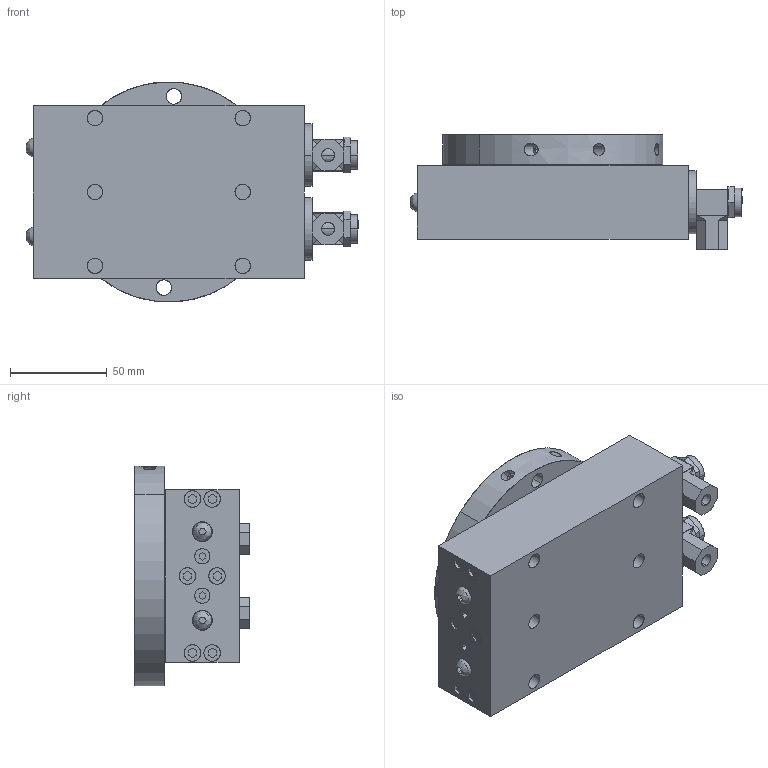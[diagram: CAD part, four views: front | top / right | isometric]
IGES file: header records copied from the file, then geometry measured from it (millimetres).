
Start section: SolidWorks IGES file using analytic representation for surfaces
Global section: file name: C:\Users\jmkuhnes\Pictures\My Transfers\AGR\AGR-4\AGR-4 HOME POSITION in MM.IGS; native system: SolidWorks 2013; preprocessor: SolidWorks 2013; author: jmkuhnes; date: 141105.131346; units: millimetre
Bounding box: 171.3 x 59.2 x 113.47 mm (x, y, z)
Surface area: 98361.3 mm2 (no closed solid volume)
Topology: 0 solids, 0 shells, 450 faces, 7551 edges, 7551 vertices
Faces by surface type: bspline 281, revolution 169
